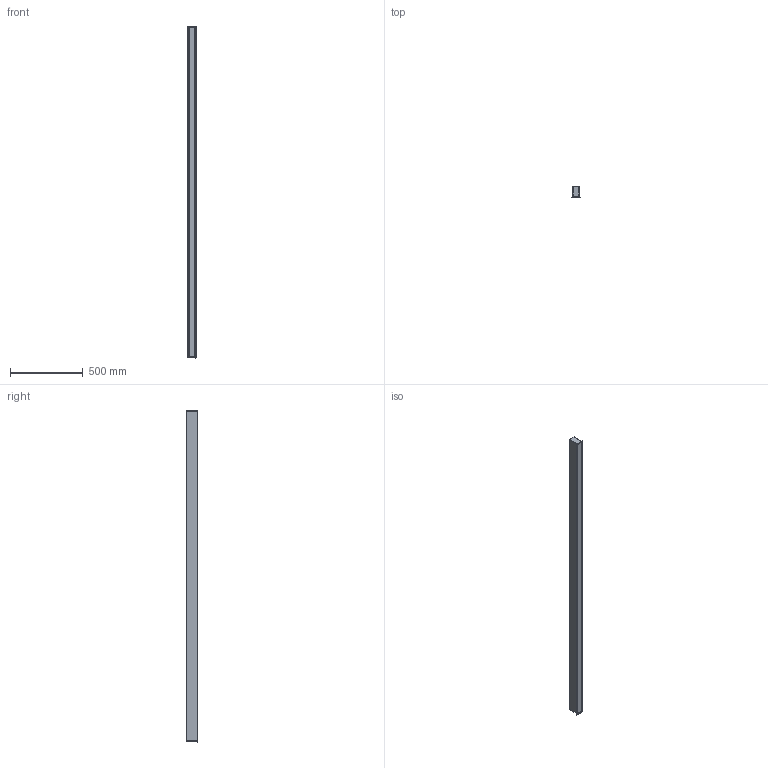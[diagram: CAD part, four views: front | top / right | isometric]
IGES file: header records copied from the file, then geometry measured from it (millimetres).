
Start section: SolidWorks IGES file using analytic representation for surfaces
Global section: file name: C:\Users\JoãoSantos\Desktop\02_3D.2D\01_2020\02_Linear\05_U45\01_Recessed\U35_RECESSED_2275.IGS; native system: SolidWorks 2020; preprocessor: SolidWorks 2020; author: JoãoSantos; date: 201021.124330; units: millimetre
Bounding box: 55 x 77.5 x 2275 mm (x, y, z)
Surface area: 1139124.8 mm2 (no closed solid volume)
Topology: 0 solids, 0 shells, 86 faces, 576 edges, 568 vertices
Faces by surface type: revolution 46, bspline 40
